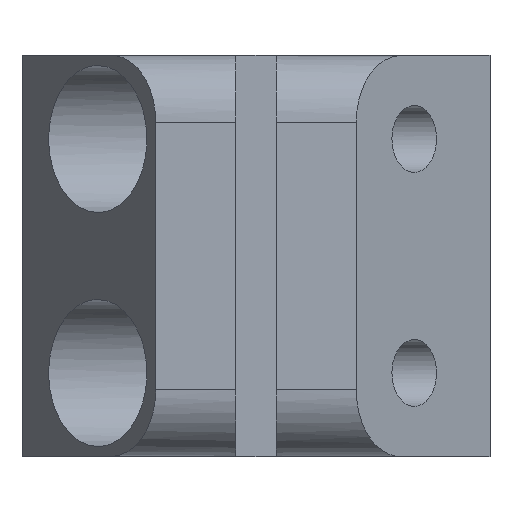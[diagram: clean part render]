
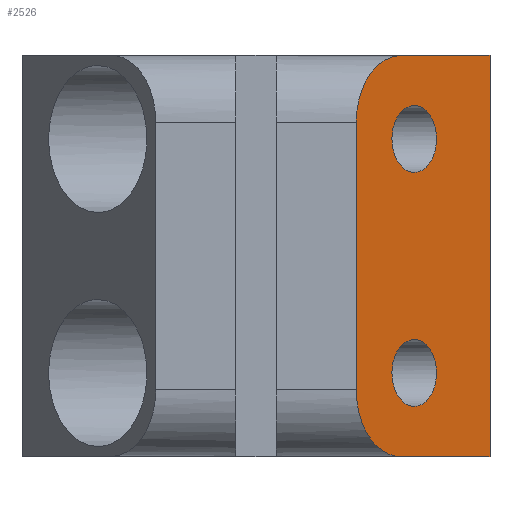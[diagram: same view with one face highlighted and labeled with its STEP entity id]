
A CAD part, left-side view. The second image highlights one B-rep face of the part: STEP entity #2526.
In plain terms, the highlighted planar face has unit normal (-0.555, -0.832, 0).
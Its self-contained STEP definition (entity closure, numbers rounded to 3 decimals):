
#1 = CARTESIAN_POINT ( 'NONE',  ( 15., 0., 0. ) ) ;
#6 = CARTESIAN_POINT ( 'NONE',  ( 6.5, 5.667, 8.75 ) ) ;
#22 = CARTESIAN_POINT ( 'NONE',  ( 0., 10., 30. ) ) ;
#24 =( BOUNDED_CURVE ( )  B_SPLINE_CURVE ( 3, ( #434, #1804, #643, #1235 ),
 .UNSPECIFIED., .F., .F. ) 
 B_SPLINE_CURVE_WITH_KNOTS ( ( 4, 4 ),
 ( 0., 1.571 ),
 .UNSPECIFIED. ) 
 CURVE ( )  GEOMETRIC_REPRESENTATION_ITEM ( )  RATIONAL_B_SPLINE_CURVE ( ( 1., 0.805, 0.805, 1. ) ) 
 REPRESENTATION_ITEM ( '' )  );
#36 = EDGE_LOOP ( 'NONE', ( #1661, #348, #900, #2442, #689, #1443 ) ) ;
#77 = DIRECTION ( 'NONE',  ( 0.555, 0.832, 0. ) ) ;
#176 = CARTESIAN_POINT ( 'NONE',  ( 0., 10., 25. ) ) ;
#216 = VERTEX_POINT ( 'NONE', #2296 ) ;
#224 = DIRECTION ( 'NONE',  ( -0.832, 0.555, 0. ) ) ;
#234 = CARTESIAN_POINT ( 'NONE',  ( 6.5, 5.667, 8.75 ) ) ;
#239 = CARTESIAN_POINT ( 'NONE',  ( 0., 10., 27.929 ) ) ;
#310 = CARTESIAN_POINT ( 'NONE',  ( 11.5, 2.333, 8.75 ) ) ;
#329 = LINE ( 'NONE', #1465, #2321 ) ;
#348 = ORIENTED_EDGE ( 'NONE', *, *, #1562, .T. ) ;
#352 = EDGE_LOOP ( 'NONE', ( #1329, #2218 ) ) ;
#356 = EDGE_CURVE ( 'NONE', #898, #216, #2306, .T. ) ;
#434 = CARTESIAN_POINT ( 'NONE',  ( 0., 10., 5. ) ) ;
#438 = EDGE_CURVE ( 'NONE', #2087, #1111, #1765, .T. ) ;
#446 = EDGE_CURVE ( 'NONE', #589, #885, #694, .T. ) ;
#489 = CARTESIAN_POINT ( 'NONE',  ( 6.5, 5.667, 3.75 ) ) ;
#543 = CARTESIAN_POINT ( 'NONE',  ( 0., 10., 5. ) ) ;
#557 =( BOUNDED_CURVE ( )  B_SPLINE_CURVE ( 3, ( #2271, #310, #1653, #489 ),
 .UNSPECIFIED., .F., .F. ) 
 B_SPLINE_CURVE_WITH_KNOTS ( ( 4, 4 ),
 ( 1.571, 4.712 ),
 .UNSPECIFIED. ) 
 CURVE ( )  GEOMETRIC_REPRESENTATION_ITEM ( )  RATIONAL_B_SPLINE_CURVE ( ( 1., 0.333, 0.333, 1. ) ) 
 REPRESENTATION_ITEM ( '' )  );
#565 = CARTESIAN_POINT ( 'NONE',  ( 5., 6.667, 0. ) ) ;
#589 = VERTEX_POINT ( 'NONE', #2065 ) ;
#598 = CARTESIAN_POINT ( 'NONE',  ( 0., 10., 0. ) ) ;
#643 = CARTESIAN_POINT ( 'NONE',  ( 2.071, 8.619, 0. ) ) ;
#663 = CARTESIAN_POINT ( 'NONE',  ( 6.5, 5.667, 3.75 ) ) ;
#689 = ORIENTED_EDGE ( 'NONE', *, *, #703, .F. ) ;
#694 = LINE ( 'NONE', #22, #2167 ) ;
#703 = EDGE_CURVE ( 'NONE', #1289, #1425, #329, .T. ) ;
#778 = DIRECTION ( 'NONE',  ( 0., 0., 1. ) ) ;
#798 = DIRECTION ( 'NONE',  ( -0.832, 0.555, 0. ) ) ;
#799 = EDGE_CURVE ( 'NONE', #1289, #589, #2387, .T. ) ;
#829 = ORIENTED_EDGE ( 'NONE', *, *, #1993, .T. ) ;
#830 = VERTEX_POINT ( 'NONE', #543 ) ;
#885 = VERTEX_POINT ( 'NONE', #1774 ) ;
#898 = VERTEX_POINT ( 'NONE', #1190 ) ;
#900 = ORIENTED_EDGE ( 'NONE', *, *, #1277, .F. ) ;
#907 = CARTESIAN_POINT ( 'NONE',  ( 6.5, 5.667, 21.25 ) ) ;
#972 = CARTESIAN_POINT ( 'NONE',  ( 1.5, 9., 26.25 ) ) ;
#987 = CARTESIAN_POINT ( 'NONE',  ( 6.5, 5.667, 26.25 ) ) ;
#1088 = DIRECTION ( 'NONE',  ( -0.832, 0.555, 0. ) ) ;
#1111 = VERTEX_POINT ( 'NONE', #234 ) ;
#1190 = CARTESIAN_POINT ( 'NONE',  ( 6.5, 5.667, 21.25 ) ) ;
#1197 = CARTESIAN_POINT ( 'NONE',  ( 2.071, 8.619, 30. ) ) ;
#1235 = CARTESIAN_POINT ( 'NONE',  ( 5., 6.667, 0. ) ) ;
#1277 = EDGE_CURVE ( 'NONE', #830, #1324, #1304, .T. ) ;
#1289 = VERTEX_POINT ( 'NONE', #1317 ) ;
#1302 = CARTESIAN_POINT ( 'NONE',  ( 1.5, 9., 21.25 ) ) ;
#1304 = LINE ( 'NONE', #1507, #1699 ) ;
#1317 = CARTESIAN_POINT ( 'NONE',  ( 15., 0., 0. ) ) ;
#1324 = VERTEX_POINT ( 'NONE', #176 ) ;
#1329 = ORIENTED_EDGE ( 'NONE', *, *, #1736, .T. ) ;
#1390 = CARTESIAN_POINT ( 'NONE',  ( 11.5, 2.333, 26.25 ) ) ;
#1418 = FACE_OUTER_BOUND ( 'NONE', #36, .T. ) ;
#1425 = VERTEX_POINT ( 'NONE', #565 ) ;
#1443 = ORIENTED_EDGE ( 'NONE', *, *, #799, .T. ) ;
#1465 = CARTESIAN_POINT ( 'NONE',  ( 0., 10., 0. ) ) ;
#1502 = FACE_BOUND ( 'NONE', #1966, .T. ) ;
#1503 = AXIS2_PLACEMENT_3D ( 'NONE', #598, #77, #798 ) ;
#1507 = CARTESIAN_POINT ( 'NONE',  ( 0., 10., 0. ) ) ;
#1562 = EDGE_CURVE ( 'NONE', #885, #1324, #2118, .T. ) ;
#1563 = CARTESIAN_POINT ( 'NONE',  ( 1.5, 9., 3.75 ) ) ;
#1627 = PLANE ( 'NONE',  #1503 ) ;
#1653 = CARTESIAN_POINT ( 'NONE',  ( 11.5, 2.333, 3.75 ) ) ;
#1661 = ORIENTED_EDGE ( 'NONE', *, *, #446, .T. ) ;
#1699 = VECTOR ( 'NONE', #2509, 1000. ) ;
#1736 = EDGE_CURVE ( 'NONE', #1111, #2087, #557, .T. ) ;
#1765 =( BOUNDED_CURVE ( )  B_SPLINE_CURVE ( 3, ( #2396, #1563, #1792, #6 ),
 .UNSPECIFIED., .F., .F. ) 
 B_SPLINE_CURVE_WITH_KNOTS ( ( 4, 4 ),
 ( 4.712, 7.854 ),
 .UNSPECIFIED. ) 
 CURVE ( )  GEOMETRIC_REPRESENTATION_ITEM ( )  RATIONAL_B_SPLINE_CURVE ( ( 1., 0.333, 0.333, 1. ) ) 
 REPRESENTATION_ITEM ( '' )  );
#1774 = CARTESIAN_POINT ( 'NONE',  ( 5., 6.667, 30. ) ) ;
#1790 = CARTESIAN_POINT ( 'NONE',  ( 6.5, 5.667, 21.25 ) ) ;
#1792 = CARTESIAN_POINT ( 'NONE',  ( 1.5, 9., 8.75 ) ) ;
#1804 = CARTESIAN_POINT ( 'NONE',  ( 0., 10., 2.071 ) ) ;
#1805 = CARTESIAN_POINT ( 'NONE',  ( 0., 10., 25. ) ) ;
#1853 = VECTOR ( 'NONE', #778, 1000. ) ;
#1870 = EDGE_CURVE ( 'NONE', #830, #1425, #24, .T. ) ;
#1929 = FACE_BOUND ( 'NONE', #352, .T. ) ;
#1966 = EDGE_LOOP ( 'NONE', ( #829, #2398 ) ) ;
#1975 = CARTESIAN_POINT ( 'NONE',  ( 6.5, 5.667, 26.25 ) ) ;
#1982 = CARTESIAN_POINT ( 'NONE',  ( 11.5, 2.333, 21.25 ) ) ;
#1993 = EDGE_CURVE ( 'NONE', #216, #898, #2116, .T. ) ;
#2065 = CARTESIAN_POINT ( 'NONE',  ( 15., 0., 30. ) ) ;
#2087 = VERTEX_POINT ( 'NONE', #663 ) ;
#2116 =( BOUNDED_CURVE ( )  B_SPLINE_CURVE ( 3, ( #987, #1390, #1982, #1790 ),
 .UNSPECIFIED., .F., .F. ) 
 B_SPLINE_CURVE_WITH_KNOTS ( ( 4, 4 ),
 ( 1.571, 4.712 ),
 .UNSPECIFIED. ) 
 CURVE ( )  GEOMETRIC_REPRESENTATION_ITEM ( )  RATIONAL_B_SPLINE_CURVE ( ( 1., 0.333, 0.333, 1. ) ) 
 REPRESENTATION_ITEM ( '' )  );
#2118 =( BOUNDED_CURVE ( )  B_SPLINE_CURVE ( 3, ( #2200, #1197, #239, #1805 ),
 .UNSPECIFIED., .F., .F. ) 
 B_SPLINE_CURVE_WITH_KNOTS ( ( 4, 4 ),
 ( 1.571, 3.142 ),
 .UNSPECIFIED. ) 
 CURVE ( )  GEOMETRIC_REPRESENTATION_ITEM ( )  RATIONAL_B_SPLINE_CURVE ( ( 1., 0.805, 0.805, 1. ) ) 
 REPRESENTATION_ITEM ( '' )  );
#2167 = VECTOR ( 'NONE', #224, 1000. ) ;
#2200 = CARTESIAN_POINT ( 'NONE',  ( 5., 6.667, 30. ) ) ;
#2218 = ORIENTED_EDGE ( 'NONE', *, *, #438, .T. ) ;
#2271 = CARTESIAN_POINT ( 'NONE',  ( 6.5, 5.667, 8.75 ) ) ;
#2296 = CARTESIAN_POINT ( 'NONE',  ( 6.5, 5.667, 26.25 ) ) ;
#2306 =( BOUNDED_CURVE ( )  B_SPLINE_CURVE ( 3, ( #907, #1302, #972, #1975 ),
 .UNSPECIFIED., .F., .T. ) 
 B_SPLINE_CURVE_WITH_KNOTS ( ( 4, 4 ),
 ( 4.712, 7.854 ),
 .UNSPECIFIED. ) 
 CURVE ( )  GEOMETRIC_REPRESENTATION_ITEM ( )  RATIONAL_B_SPLINE_CURVE ( ( 1., 0.333, 0.333, 1. ) ) 
 REPRESENTATION_ITEM ( '' )  );
#2321 = VECTOR ( 'NONE', #1088, 1000. ) ;
#2387 = LINE ( 'NONE', #1, #1853 ) ;
#2396 = CARTESIAN_POINT ( 'NONE',  ( 6.5, 5.667, 3.75 ) ) ;
#2398 = ORIENTED_EDGE ( 'NONE', *, *, #356, .T. ) ;
#2442 = ORIENTED_EDGE ( 'NONE', *, *, #1870, .T. ) ;
#2509 = DIRECTION ( 'NONE',  ( 0., 0., 1. ) ) ;
#2526 = ADVANCED_FACE ( 'NONE', ( #1929, #1502, #1418 ), #1627, .F. ) ;
